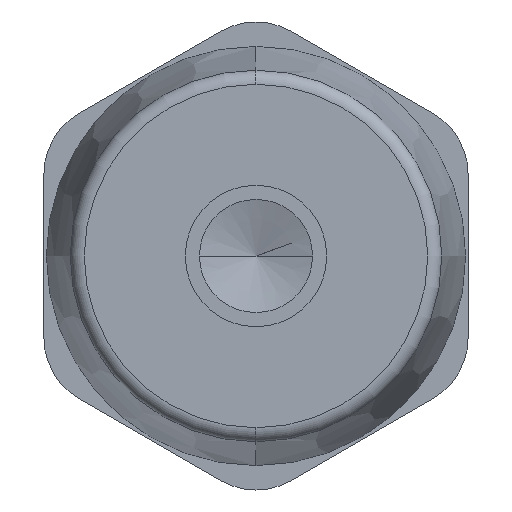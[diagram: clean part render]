
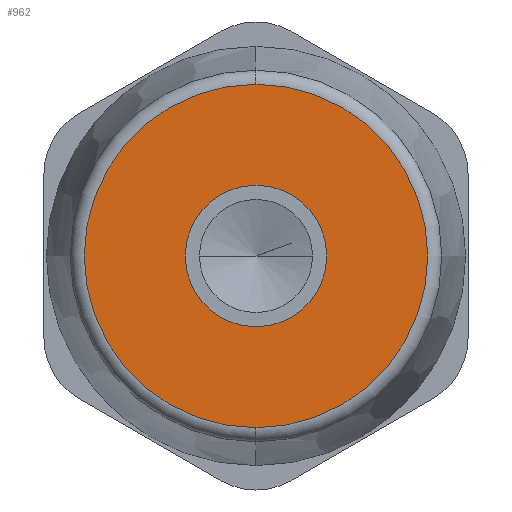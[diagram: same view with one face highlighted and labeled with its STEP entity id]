
A CAD part, front view. The second image highlights one B-rep face of the part: STEP entity #962.
In plain terms, the highlighted planar face has unit normal (0, -1, 0).
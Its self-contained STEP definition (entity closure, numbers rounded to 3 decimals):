
#14 = FACE_OUTER_BOUND ( 'NONE', #245, .T. ) ;
#23 = PLANE ( 'NONE',  #1445 ) ;
#51 = DIRECTION ( 'NONE',  ( 0., 1., 0. ) ) ;
#82 = CARTESIAN_POINT ( 'NONE',  ( 0., 0., 12.146 ) ) ;
#108 = VERTEX_POINT ( 'NONE', #1556 ) ;
#119 = EDGE_LOOP ( 'NONE', ( #1320, #1800 ) ) ;
#123 = CARTESIAN_POINT ( 'NONE',  ( 5., 0., 0. ) ) ;
#173 = DIRECTION ( 'NONE',  ( 0., 1., 0. ) ) ;
#245 = EDGE_LOOP ( 'NONE', ( #1683, #822 ) ) ;
#326 = EDGE_CURVE ( 'NONE', #549, #108, #1869, .T. ) ;
#341 = CIRCLE ( 'NONE', #1444, 5. ) ;
#463 = CARTESIAN_POINT ( 'NONE',  ( 0., 0., 0. ) ) ;
#509 = DIRECTION ( 'NONE',  ( 0., 1., 0. ) ) ;
#549 = VERTEX_POINT ( 'NONE', #123 ) ;
#551 = DIRECTION ( 'NONE',  ( 0., -1., 0. ) ) ;
#574 = EDGE_CURVE ( 'NONE', #1032, #1613, #692, .T. ) ;
#692 = CIRCLE ( 'NONE', #1303, 12.146 ) ;
#694 = DIRECTION ( 'NONE',  ( -1., 0., 0. ) ) ;
#757 = CARTESIAN_POINT ( 'NONE',  ( 0., 0., -12.146 ) ) ;
#764 = DIRECTION ( 'NONE',  ( 0., -1., 0. ) ) ;
#792 = DIRECTION ( 'NONE',  ( -1., 0., 0. ) ) ;
#822 = ORIENTED_EDGE ( 'NONE', *, *, #1047, .T. ) ;
#854 = CARTESIAN_POINT ( 'NONE',  ( 0., 0., 0. ) ) ;
#962 = ADVANCED_FACE ( 'NONE', ( #1954, #14 ), #23, .F. ) ;
#982 = AXIS2_PLACEMENT_3D ( 'NONE', #1492, #173, #792 ) ;
#1032 = VERTEX_POINT ( 'NONE', #82 ) ;
#1042 = DIRECTION ( 'NONE',  ( 0., 0., 1. ) ) ;
#1047 = EDGE_CURVE ( 'NONE', #1613, #1032, #1754, .T. ) ;
#1151 = DIRECTION ( 'NONE',  ( 0., 0., 1. ) ) ;
#1303 = AXIS2_PLACEMENT_3D ( 'NONE', #463, #764, #1733 ) ;
#1320 = ORIENTED_EDGE ( 'NONE', *, *, #1778, .T. ) ;
#1381 = AXIS2_PLACEMENT_3D ( 'NONE', #1507, #551, #1042 ) ;
#1444 = AXIS2_PLACEMENT_3D ( 'NONE', #854, #51, #694 ) ;
#1445 = AXIS2_PLACEMENT_3D ( 'NONE', #1962, #509, #1151 ) ;
#1492 = CARTESIAN_POINT ( 'NONE',  ( 0., 0., 0. ) ) ;
#1507 = CARTESIAN_POINT ( 'NONE',  ( 0., 0., 0. ) ) ;
#1556 = CARTESIAN_POINT ( 'NONE',  ( -5., 0., 0. ) ) ;
#1613 = VERTEX_POINT ( 'NONE', #757 ) ;
#1683 = ORIENTED_EDGE ( 'NONE', *, *, #574, .T. ) ;
#1733 = DIRECTION ( 'NONE',  ( 0., 0., 1. ) ) ;
#1754 = CIRCLE ( 'NONE', #1381, 12.146 ) ;
#1778 = EDGE_CURVE ( 'NONE', #108, #549, #341, .T. ) ;
#1800 = ORIENTED_EDGE ( 'NONE', *, *, #326, .T. ) ;
#1869 = CIRCLE ( 'NONE', #982, 5. ) ;
#1954 = FACE_BOUND ( 'NONE', #119, .T. ) ;
#1962 = CARTESIAN_POINT ( 'NONE',  ( 15., 0., -8.66 ) ) ;
